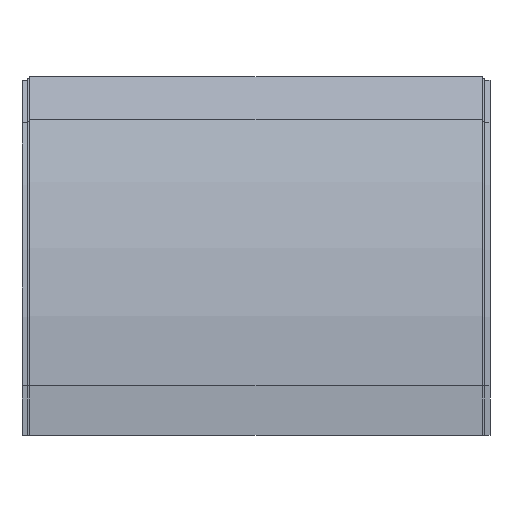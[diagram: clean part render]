
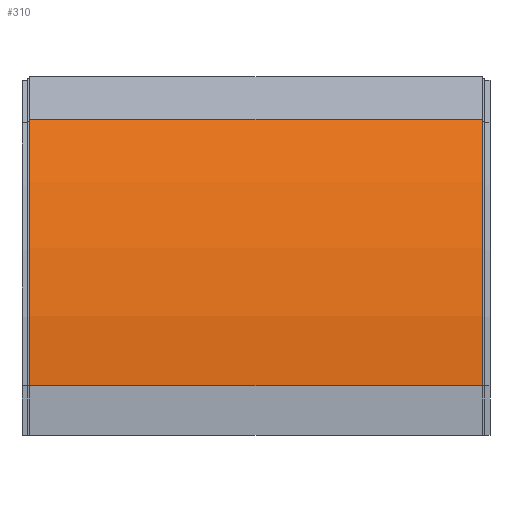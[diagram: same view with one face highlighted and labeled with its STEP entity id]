
A CAD part, front view. The second image highlights one B-rep face of the part: STEP entity #310.
In plain terms, the highlighted cylindrical face has radius 568.25 mm (diameter 1136.5 mm), a partial arc.
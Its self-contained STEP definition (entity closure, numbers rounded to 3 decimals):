
#13 = EDGE_LOOP ( 'NONE', ( #1022, #1177, #872, #634 ) ) ;
#17 = AXIS2_PLACEMENT_3D ( 'NONE', #1255, #269, #1153 ) ;
#31 = EDGE_CURVE ( 'NONE', #780, #59, #1211, .T. ) ;
#59 = VERTEX_POINT ( 'NONE', #1291 ) ;
#66 = CARTESIAN_POINT ( 'NONE',  ( -241.3, 7.881, 336.625 ) ) ;
#81 = DIRECTION ( 'NONE',  ( -1., 0., 0. ) ) ;
#200 = DIRECTION ( 'NONE',  ( 0., 0., 1. ) ) ;
#201 = CARTESIAN_POINT ( 'NONE',  ( -241.3, -68.25, 52.5 ) ) ;
#269 = DIRECTION ( 'NONE',  ( -1., 0., 0. ) ) ;
#297 = CYLINDRICAL_SURFACE ( 'NONE', #1147, 568.25 ) ;
#310 = ADVANCED_FACE ( 'NONE', ( #434 ), #297, .T. ) ;
#434 = FACE_OUTER_BOUND ( 'NONE', #13, .T. ) ;
#444 = CARTESIAN_POINT ( 'NONE',  ( 0., 500., 52.5 ) ) ;
#509 = EDGE_CURVE ( 'NONE', #706, #1320, #625, .T. ) ;
#516 = CARTESIAN_POINT ( 'NONE',  ( -241.3, 7.881, 336.625 ) ) ;
#538 = LINE ( 'NONE', #66, #741 ) ;
#579 = EDGE_CURVE ( 'NONE', #706, #780, #1356, .T. ) ;
#625 = CIRCLE ( 'NONE', #17, 568.25 ) ;
#634 = ORIENTED_EDGE ( 'NONE', *, *, #509, .F. ) ;
#636 = EDGE_CURVE ( 'NONE', #1320, #59, #538, .T. ) ;
#663 = DIRECTION ( 'NONE',  ( -1., 0., 0. ) ) ;
#706 = VERTEX_POINT ( 'NONE', #201 ) ;
#741 = VECTOR ( 'NONE', #863, 1000. ) ;
#768 = DIRECTION ( 'NONE',  ( 0., 0., 1. ) ) ;
#780 = VERTEX_POINT ( 'NONE', #1206 ) ;
#863 = DIRECTION ( 'NONE',  ( 1., 0., 0. ) ) ;
#872 = ORIENTED_EDGE ( 'NONE', *, *, #636, .F. ) ;
#928 = CARTESIAN_POINT ( 'NONE',  ( -241.3, -68.25, 52.5 ) ) ;
#980 = VECTOR ( 'NONE', #1042, 1000. ) ;
#1022 = ORIENTED_EDGE ( 'NONE', *, *, #579, .T. ) ;
#1042 = DIRECTION ( 'NONE',  ( 1., 0., 0. ) ) ;
#1044 = CARTESIAN_POINT ( 'NONE',  ( 241.3, 500., 52.5 ) ) ;
#1147 = AXIS2_PLACEMENT_3D ( 'NONE', #444, #663, #768 ) ;
#1153 = DIRECTION ( 'NONE',  ( 0., 0., 1. ) ) ;
#1177 = ORIENTED_EDGE ( 'NONE', *, *, #31, .T. ) ;
#1206 = CARTESIAN_POINT ( 'NONE',  ( 241.3, -68.25, 52.5 ) ) ;
#1211 = CIRCLE ( 'NONE', #1398, 568.25 ) ;
#1255 = CARTESIAN_POINT ( 'NONE',  ( -241.3, 500., 52.5 ) ) ;
#1291 = CARTESIAN_POINT ( 'NONE',  ( 241.3, 7.881, 336.625 ) ) ;
#1320 = VERTEX_POINT ( 'NONE', #516 ) ;
#1356 = LINE ( 'NONE', #928, #980 ) ;
#1398 = AXIS2_PLACEMENT_3D ( 'NONE', #1044, #81, #200 ) ;
